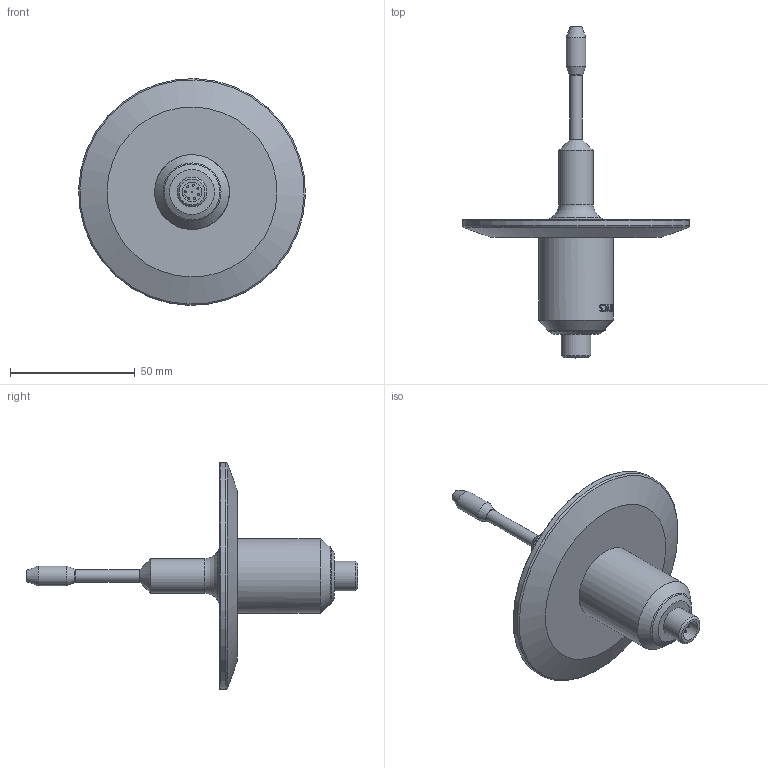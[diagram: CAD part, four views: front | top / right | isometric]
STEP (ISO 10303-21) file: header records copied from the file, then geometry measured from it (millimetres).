
FILE_DESCRIPTION(/* description */ ('Unknown'),/* implementation_level */ '2;1');
FILE_NAME(/* name */ 'SRV-HS-X3-30T',/* time_stamp */ '2023-12-12T17:18:01-05:00',/* author */ ('Unknown'),/* organization */ ('Unknown'),/* preprocessor_version */ 'ST-DEVELOPER v16.7',/* originating_system */ 'Solid Edge',/* authorisation */ 'Unknown');
FILE_SCHEMA (('CONFIG_CONTROL_DESIGN'));
Length unit declared in the file: millimetre
Products named in the file (1): SRV-HS-X3-30T
Bounding box: 90.94 x 133.13 x 90.94 mm (x, y, z)
Volume: 71590.9 mm3; surface area: 20453.9 mm2
Topology: 1 solids, 1 shells, 172 faces, 437 edges, 280 vertices
Faces by surface type: bspline 71, cylinder 37, plane 37, cone 13, sphere 8, torus 6
Full cylindrical faces by diameter (mm): 0.8 x8, 5.019 x1, 8 x2, 12 x1, 13.9 x1, 30 x1, 91 x1
Entity records: 9146 total; most frequent: CARTESIAN_POINT 4576, ORIENTED_EDGE 740, DIRECTION 476, EDGE_CURVE 370, VERTEX_POINT 263, EDGE_LOOP 235, FACE_BOUND 235, AXIS2_PLACEMENT_3D 175
